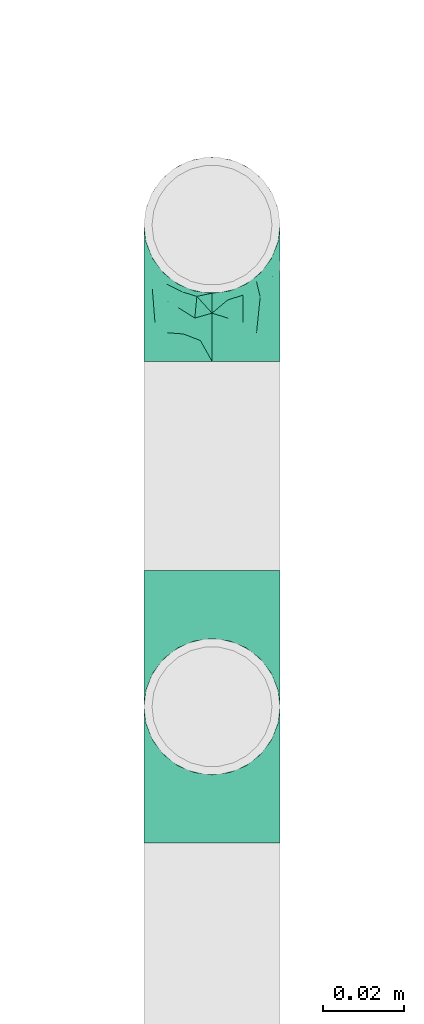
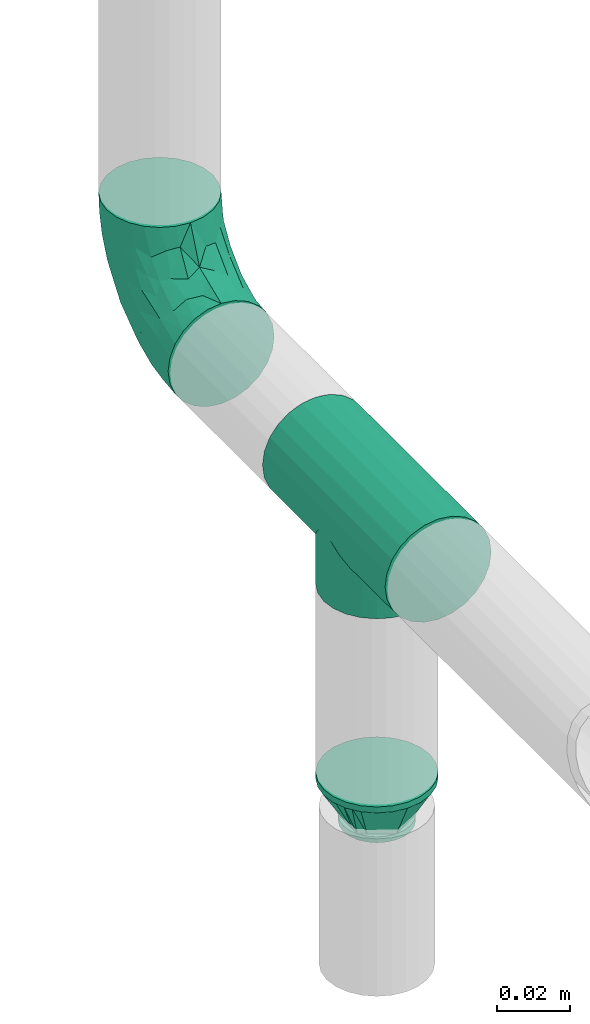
# One storey, part 22 of 51: 3 flow fittings.
"""IFC2X3 building model written with IfcOpenShell, lengths in millimetres."""

from ifc_helpers import new_model, entity, si_unit, converted_unit, derived_unit, direction, frame, origin_with_axes, place, context, subcontext, project, spatial, open_shell, surface_model, source, transform, mapped, type_object, element, save


model = new_model("IFC2X3")

# Units and contexts
model_context = context("Model", 3, precision=0.01, world=frame((0.0, 4.29681676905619e-09, 0.0)), true_north=direction((4.01073788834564e-13, 1.0)))
plan_context = context("Plan", 3, precision=0.01, world=frame((0.0, 4.29681676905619e-09, 0.0)), true_north=direction((4.01073788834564e-13, 1.0)))
body_context = subcontext(model_context, "Body", "Model", "MODEL_VIEW")
ifc_project = project(units=[converted_unit("PLANEANGLEUNIT", "DEGREE", entity("IfcPositiveLengthMeasure", 0.0174532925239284), si_unit("PLANEANGLEUNIT", "RADIAN"), dimensions=[0, 0, 0, 0, 0, 0, 0]), si_unit("AREAUNIT", "SQUARE_METRE"), si_unit("LENGTHUNIT", "METRE", prefix="MILLI"), si_unit("MASSUNIT", "GRAM", prefix="KILO"), si_unit("POWERUNIT", "WATT"), si_unit("PRESSUREUNIT", "PASCAL"), si_unit("FORCEUNIT", "NEWTON", prefix="KILO"), si_unit("ELECTRICVOLTAGEUNIT", "VOLT"), si_unit("ELECTRICCURRENTUNIT", "AMPERE"), si_unit("THERMODYNAMICTEMPERATUREUNIT", "DEGREE_CELSIUS"), si_unit("TIMEUNIT", "SECOND"), si_unit("VOLUMEUNIT", "CUBIC_METRE"), derived_unit("LINEARVELOCITYUNIT", [(si_unit("LENGTHUNIT", "METRE"), 1), (si_unit("TIMEUNIT", "SECOND"), -1)]), derived_unit("VOLUMETRICFLOWRATEUNIT", [(si_unit("VOLUMEUNIT", "CUBIC_METRE"), 1), (si_unit("TIMEUNIT", "SECOND"), -1)]), derived_unit("THERMALTRANSMITTANCEUNIT", [(si_unit("POWERUNIT", "WATT"), 1), (si_unit("THERMODYNAMICTEMPERATUREUNIT", "KELVIN"), -1), (si_unit("AREAUNIT", "SQUARE_METRE"), -1)]), derived_unit("SOUNDPRESSUREUNIT", [(si_unit("PRESSUREUNIT", "PASCAL"), 1)])], contexts=[model_context, plan_context])

# Site, building, storey
site_placement = place(None, frame((0.0, -4.29681676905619e-09, 0.0), z_axis=(0.0, 0.0, 1.0), x_axis=(1.0, 0.0, 0.0)))
site = spatial("IfcSite", under=ifc_project, at=site_placement, Name="ENGM", CompositionType="ELEMENT")
building_placement = place(site_placement, frame((0.0, 4.29681676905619e-09, 0.0), z_axis=(0.0, 0.0, 1.0), x_axis=(1.0, 0.0, 0.0)))
building = spatial("IfcBuilding", under=site, at=building_placement, Name="TH", CompositionType="ELEMENT")
storey_placement = place(building_placement, frame((0.0, 0.0, 210200.0), z_axis=(0.0, 0.0, 1.0), x_axis=(1.0, 0.0, 0.0)))
storey = spatial("IfcBuildingStorey", under=building, at=storey_placement, Name="Nivå F - 0,7 m", CompositionType="ELEMENT", Elevation=210200.0)

# Flow fittings
pipe_fitting_type_1 = type_object("IfcPipeFittingType", Name="magi_pipe_fe_elbow_short_001", PredefinedType="BEND")
shared_shape_1 = source(origin_with_axes(), body_context, "Body", "SurfaceModel", [
    surface_model("IfcShellBasedSurfaceModel", [(-33.8, 8.45, -14.63583), (-33.8, 4.37404, -16.32415), (-33.8, 11.9501, -11.9501), (-33.8, -11.9501, -11.9501), (-33.8, -14.63583, -8.45), (-33.8, -8.45, -14.63583), (-33.8, 0.0, -16.9), (-33.8, -4.37404, -16.32415), (-33.8, -4.37404, 16.32415), (-33.8, 0.0, 16.9), (-33.8, -8.45, 14.63583), (-33.8, 16.32415, -4.37404), (-33.8, 14.63583, -8.45), (-33.8, -16.32415, -4.37404), (-33.8, -16.9, 0.0), (-33.8, -16.32415, 4.37404), (-33.8, 11.9501, 11.9501), (-33.8, 14.63583, 8.45), (-33.8, 16.32415, 4.37404), (-33.8, 4.37404, 16.32415), (-33.8, 8.45, 14.63583), (-33.8, -14.63583, 8.45), (-33.8, -11.9501, 11.9501), (-33.8, 16.9, 0.0), (-11.9501, 33.8, -11.9501), (0.0, 33.8, -16.9), (-4.37404, 33.8, -16.32415), (-8.45, 33.8, -14.63583), (-14.63583, 33.8, -8.45), (-16.32415, 33.8, -4.37404), (14.63583, 33.8, -8.45), (8.45, 33.8, 14.63583), (16.32415, 33.8, -4.37404), (8.45, 33.8, -14.63583), (11.9501, 33.8, -11.9501), (4.37404, 33.8, -16.32415), (16.32415, 33.8, 4.37404), (16.9, 33.8, 0.0), (-11.9501, 33.8, 11.9501), (-16.32415, 33.8, 4.37404), (-14.63583, 33.8, 8.45), (-8.45, 33.8, 14.63583), (-4.37404, 33.8, 16.32415), (11.9501, 33.8, 11.9501), (14.63583, 33.8, 8.45), (0.0, 33.8, 16.9), (4.37404, 33.8, 16.32415), (-16.9, 33.8, 0.0), (-24.79389, -13.12945, 9.48721), (-22.19287, -9.75018, 12.59315), (-24.09897, -14.97035, 0.0), (-14.93934, -10.76256, 8.5297), (-22.46095, -14.75051, 5.27077), (14.75051, 22.46094, 5.27077), (11.9251, 13.23888, 4.33236), (13.04069, 14.39795, 0.0), (7.71387, 13.68847, 11.55891), (9.75018, 22.19287, 12.59315), (4.10169, 13.0571, 14.04018), (-24.84007, -6.39063, 15.2048), (-25.81779, -2.23879, 16.61097), (-23.66549, 2.59054, 16.87119), (-26.50418, 14.06512, 11.08152), (-24.21253, 17.66365, 7.72657), (-29.58514, 15.86957, 7.00283), (-6.17382, -7.5455, 0.0), (-13.23888, -11.9251, 4.33236), (-14.39795, -13.04069, 0.0), (-17.81434, 18.87373, 11.97104), (-6.30846, 29.15138, 15.82987), (-2.31622, 25.28002, 16.85849), (-29.23923, 10.23435, 13.77053), (-1.45439, -2.85688, 7.61475), (-0.28326, 0.34872, 10.09509), (-5.74484, -4.04709, 10.4122), (-4.41137, 11.31918, 16.59407), (-8.39727, 3.10034, 15.7812), (-1.72649, 9.1306, 15.53089), (-17.39909, 24.75344, 7.64977), (-26.19233, 20.0512, 0.0), (-28.14518, 17.29657, 4.25857), (-26.05147, 6.6281, 15.96447), (-5.87354, 16.61944, 16.86968), (-12.51807, 12.51807, 16.48937), (-10.06312, 7.38516, 16.81295), (-3.01882, 3.01882, 13.81718), (-13.0571, -4.10169, 14.04018), (-16.82553, -0.15166, 16.38038), (10.76256, 14.93934, 8.5297), (13.12945, 24.79389, 9.48721), (6.39063, 24.84007, 15.2048), (2.23879, 25.81779, 16.61097), (-13.68847, -7.71387, 11.55891), (14.97035, 24.09897, 0.0), (-7.30894, 22.89991, 16.09489), (-10.67958, 26.17414, 14.008), (-12.78295, 18.26924, 15.06066), (-13.88562, 22.45231, 12.93244), (-18.04944, 15.16501, 14.04434), (-23.11658, 20.08178, 4.02986), (-21.84989, 21.84989, 0.0), (-18.55817, 25.48277, 3.93065), (-13.95142, 26.94732, 11.03289), (-18.57098, 7.23906, 16.59756), (-16.58335, 4.14122, 16.89279), (-17.96666, 11.46709, 15.63151), (-9.84453, 17.54304, 16.18938), (0.15166, 16.82553, 16.38038), (-23.27207, 11.47201, 14.23154), (3.84842, 5.86994, 10.70473), (-8.0212, -7.54413, 7.93275), (1.00345, -2.19508, 4.57414), (5.13203, 3.01004, 5.90201), (5.24161, 1.7543, 2.53265), (8.70457, 7.04947, 3.99182), (-20.0512, 26.19233, 0.0), (8.4852, 8.76699, 7.09296), (-4.55488, -6.72064, 4.90681), (2.05031, -2.05031, 0.0), (7.5455, 6.17382, 0.0), (-26.75399, 2.1369, -16.845), (-14.61995, 24.73803, -11.27736), (-28.45274, -13.45335, -9.81895), (-26.00469, 6.63555, -15.96645), (-23.06726, 20.04573, -4.26202), (-13.80647, -4.26506, -14.17873), (-14.67501, -0.21081, -16.07388), (-6.7902, -0.2828, -13.8478), (-24.53586, 11.08096, -14.13417), (-26.72048, 14.00837, -11.05776), (10.0967, 24.44989, -12.75976), (5.83237, 21.40218, -15.03047), (6.66249, 28.54238, -15.38093), (-20.38182, 15.48705, -12.74596), (12.53268, 21.23441, -9.15363), (12.54494, 15.67504, -5.54878), (9.7522, 12.89279, -8.66343), (-15.65186, 19.64213, -13.01327), (-12.03528, 20.66498, -14.67665), (-15.61907, 15.61906, -14.83879), (-25.56551, -15.26206, 0.0), (-24.65452, -15.12934, -5.50955), (13.45335, 28.45274, -9.81895), (15.12934, 24.65452, -5.50955), (-7.35442, -8.31014, -5.65563), (-15.67504, -12.54494, -5.54878), (-24.44989, -10.0967, -12.75976), (0.16522, 0.41303, -9.71728), (-5.70658, -5.33066, -8.89288), (-5.13869, -2.37198, -11.53565), (-21.23441, -12.53268, -9.15363), (0.71146, 7.93863, -14.09382), (0.21081, 14.67501, -16.07388), (3.49291, 14.42772, -14.76381), (-24.89911, -2.13088, -16.591), (-28.54238, -6.66249, -15.38093), (-18.44386, -7.71663, -13.26957), (2.13088, 24.89911, -16.591), (-28.64342, 17.44413, -2.89318), (1.70017, -1.28722, -5.09504), (-16.57067, 26.81947, -7.36596), (-17.69055, 27.4263, -3.76405), (-12.89279, -9.7522, -8.66343), (-5.96611, 5.96611, -15.95814), (-20.53709, 20.09345, -8.28985), (-2.1369, 26.75399, -16.845), (-6.89872, 24.58781, -16.02578), (-10.60739, 26.53157, -13.98044), (-21.40218, -5.83237, -15.03047), (2.93192, 5.89627, -11.55917), (6.89393, 12.61842, -11.82233), (5.58056, 5.95325, -8.79455), (-3.99512, 18.61798, -16.89635), (8.31014, 7.35442, -5.65563), (-9.1383, 9.86148, -16.89041), (-9.99983, 16.02119, -16.39699), (-16.68576, 9.78031, -16.34199), (-27.01915, 16.61158, -7.12979), (15.26206, 25.56551, 0.0), (-18.61798, 3.99512, -16.89635), (-19.37495, 27.82495, 0.0), (-12.61842, -6.89393, -11.82233), (-18.84705, 19.14018, -10.96545)], [open_shell([[[0, 1, 2]], [[3, 4, 5]], [[6, 7, 5]], [[8, 9, 10]], [[1, 6, 2]], [[11, 12, 2]], [[4, 2, 6]], [[2, 13, 10]], [[5, 4, 6]], [[2, 4, 13]], [[14, 15, 13]], [[11, 2, 16]], [[11, 17, 18]], [[11, 16, 17]], [[19, 20, 16]], [[16, 2, 10]], [[19, 16, 10]], [[21, 22, 15]], [[22, 13, 15]], [[22, 10, 13]], [[10, 9, 19]], [[11, 18, 23]], [[24, 25, 26]], [[24, 26, 27]], [[24, 28, 29]], [[25, 24, 30]], [[31, 32, 24]], [[33, 30, 34]], [[33, 35, 25]], [[25, 30, 33]], [[32, 30, 24]], [[32, 36, 37]], [[38, 24, 29]], [[39, 40, 29]], [[40, 38, 29]], [[38, 41, 42]], [[38, 31, 24]], [[31, 38, 42]], [[36, 43, 44]], [[36, 32, 43]], [[31, 45, 46]], [[32, 31, 43]], [[42, 45, 31]], [[39, 29, 47]], [[22, 48, 49]], [[15, 14, 50]], [[51, 48, 52]], [[53, 54, 55]], [[48, 22, 21]], [[15, 52, 21]], [[56, 57, 58]], [[49, 10, 22]], [[49, 59, 10]], [[9, 60, 61]], [[62, 63, 64]], [[65, 66, 67]], [[57, 43, 31]], [[62, 68, 63]], [[42, 69, 70]], [[20, 71, 16]], [[8, 60, 9]], [[72, 73, 74]], [[75, 76, 77]], [[16, 62, 17]], [[40, 39, 78]], [[79, 23, 80]], [[64, 18, 17]], [[9, 61, 19]], [[19, 81, 20]], [[82, 83, 84]], [[74, 85, 86]], [[59, 86, 87]], [[88, 89, 57]], [[90, 31, 46]], [[44, 53, 36]], [[46, 45, 91]], [[54, 53, 88]], [[44, 89, 53]], [[92, 86, 49]], [[89, 44, 43]], [[10, 59, 8]], [[53, 55, 93]], [[93, 36, 53]], [[66, 52, 67]], [[94, 82, 70]], [[95, 96, 94]], [[97, 98, 96]], [[79, 99, 100]], [[41, 38, 95]], [[101, 100, 99]], [[68, 78, 63]], [[42, 41, 69]], [[23, 18, 80]], [[95, 94, 69]], [[78, 101, 99]], [[38, 102, 95]], [[70, 45, 42]], [[97, 95, 102]], [[15, 50, 52]], [[90, 57, 31]], [[57, 90, 58]], [[81, 19, 61]], [[103, 104, 84]], [[105, 81, 103]], [[38, 40, 102]], [[106, 96, 83]], [[94, 106, 82]], [[91, 70, 107]], [[71, 62, 16]], [[62, 108, 98]], [[86, 59, 49]], [[67, 52, 50]], [[60, 59, 87]], [[92, 49, 51]], [[86, 85, 76]], [[91, 90, 46]], [[37, 36, 93]], [[107, 77, 58]], [[107, 58, 90]], [[58, 85, 109]], [[110, 74, 92]], [[72, 74, 110]], [[66, 51, 52]], [[72, 111, 112]], [[113, 114, 112]], [[56, 88, 57]], [[52, 48, 21]], [[49, 48, 51]], [[57, 89, 43]], [[53, 89, 88]], [[103, 81, 61]], [[71, 81, 108]], [[18, 64, 80]], [[63, 78, 99]], [[47, 115, 101]], [[101, 115, 100]], [[40, 78, 102]], [[68, 102, 78]], [[97, 96, 95]], [[105, 98, 108]], [[103, 84, 83]], [[107, 70, 82]], [[76, 84, 87]], [[82, 84, 75]], [[70, 91, 45]], [[90, 91, 107]], [[59, 60, 8]], [[61, 60, 87]], [[73, 85, 74]], [[109, 112, 116]], [[103, 61, 104]], [[105, 103, 83]], [[96, 105, 83]], [[81, 105, 108]], [[96, 98, 105]], [[62, 98, 68]], [[61, 87, 104]], [[87, 84, 104]], [[86, 76, 87]], [[77, 76, 85]], [[58, 77, 85]], [[75, 77, 107]], [[82, 75, 107]], [[76, 75, 84]], [[81, 71, 20]], [[62, 71, 108]], [[95, 69, 41]], [[70, 69, 94]], [[62, 64, 17]], [[80, 63, 99]], [[63, 80, 64]], [[80, 99, 79]], [[66, 65, 117]], [[110, 66, 117]], [[112, 114, 116]], [[118, 117, 65]], [[110, 92, 51]], [[112, 111, 113]], [[119, 55, 54]], [[74, 86, 92]], [[58, 109, 56]], [[116, 56, 109]], [[66, 110, 51]], [[72, 110, 117]], [[111, 72, 117]], [[73, 112, 109]], [[117, 118, 111]], [[113, 111, 118]], [[118, 119, 113]], [[114, 119, 54]], [[119, 114, 113]], [[116, 54, 88]], [[54, 116, 114]], [[116, 88, 56]], [[112, 73, 72]], [[85, 73, 109]], [[78, 39, 101]], [[47, 101, 39]], [[102, 68, 97]], [[97, 68, 98]], [[82, 106, 83]], [[94, 96, 106]], [[1, 120, 6]], [[28, 24, 121]], [[3, 122, 4]], [[0, 123, 1]], [[100, 124, 79]], [[125, 126, 127]], [[128, 2, 129]], [[130, 131, 132]], [[128, 129, 133]], [[134, 135, 136]], [[137, 138, 139]], [[128, 0, 2]], [[67, 140, 141]], [[134, 142, 143]], [[141, 13, 4]], [[144, 65, 145]], [[146, 3, 5]], [[147, 148, 149]], [[145, 141, 150]], [[151, 152, 153]], [[154, 7, 6]], [[5, 155, 146]], [[150, 146, 156]], [[155, 5, 7]], [[143, 135, 134]], [[35, 157, 25]], [[23, 79, 158]], [[148, 159, 144]], [[160, 161, 29]], [[145, 162, 144]], [[163, 152, 151]], [[29, 28, 160]], [[121, 164, 160]], [[33, 34, 130]], [[25, 165, 26]], [[26, 165, 166]], [[142, 34, 30]], [[24, 27, 167]], [[124, 161, 164]], [[157, 35, 132]], [[155, 154, 168]], [[123, 0, 128]], [[169, 170, 171]], [[172, 157, 152]], [[26, 166, 27]], [[132, 35, 33]], [[142, 130, 34]], [[168, 154, 126]], [[136, 135, 173]], [[133, 137, 139]], [[2, 12, 129]], [[170, 131, 130]], [[30, 32, 143]], [[172, 174, 175]], [[176, 123, 128]], [[158, 177, 11]], [[135, 55, 119]], [[167, 27, 166]], [[175, 166, 172]], [[137, 167, 138]], [[122, 141, 4]], [[140, 14, 13]], [[32, 37, 178]], [[170, 130, 134]], [[152, 157, 131]], [[165, 157, 172]], [[153, 170, 151]], [[152, 163, 174]], [[168, 125, 156]], [[122, 146, 150]], [[120, 154, 6]], [[179, 174, 126]], [[179, 126, 154]], [[126, 163, 127]], [[162, 145, 150]], [[140, 13, 141]], [[32, 178, 143]], [[55, 143, 178]], [[177, 129, 12]], [[128, 133, 139]], [[176, 128, 139]], [[120, 123, 179]], [[121, 160, 28]], [[161, 100, 180]], [[166, 175, 138]], [[121, 24, 167]], [[161, 47, 29]], [[79, 124, 158]], [[124, 164, 177]], [[161, 124, 100]], [[136, 171, 170]], [[127, 163, 151]], [[147, 171, 159]], [[148, 144, 162]], [[127, 151, 169]], [[127, 181, 125]], [[129, 177, 164]], [[12, 11, 177]], [[159, 65, 144]], [[67, 141, 145]], [[143, 55, 135]], [[135, 119, 173]], [[123, 120, 1]], [[154, 120, 179]], [[157, 165, 25]], [[166, 165, 172]], [[172, 152, 174]], [[176, 139, 175]], [[126, 174, 163]], [[176, 174, 179]], [[174, 176, 175]], [[123, 176, 179]], [[150, 181, 162]], [[127, 149, 181]], [[181, 148, 162]], [[159, 148, 147]], [[171, 136, 173]], [[170, 134, 136]], [[159, 171, 173]], [[171, 147, 169]], [[169, 147, 149]], [[151, 170, 169]], [[164, 182, 129]], [[182, 121, 137]], [[181, 149, 148]], [[169, 149, 127]], [[182, 137, 133]], [[167, 137, 121]], [[166, 138, 167]], [[175, 139, 138]], [[129, 182, 133]], [[121, 182, 164]], [[161, 160, 164]], [[47, 161, 180]], [[177, 158, 124]], [[23, 158, 11]], [[130, 132, 33]], [[157, 132, 131]], [[143, 142, 30]], [[130, 142, 134]], [[154, 155, 7]], [[146, 155, 168]], [[146, 122, 3]], [[141, 122, 150]], [[152, 131, 153]], [[159, 119, 118]], [[67, 145, 65]], [[170, 153, 131]], [[119, 159, 173]], [[159, 118, 65]], [[156, 125, 181]], [[126, 125, 168]], [[150, 156, 181]], [[168, 156, 146]]])]),
])
flow_fitting_1_placement = place(storey_placement, frame((903366.02472, 481524.00985, 2700.0), z_axis=(1.0, 0.0, 0.0), x_axis=(0.0, 1.0, 0.0)))
element("IfcFlowFitting", 1, at=flow_fitting_1_placement, inside=storey, type_object=pipe_fitting_type_1, Name="magi_pipe_fe_elbow_short_001", context=body_context, shape_type="MappedRepresentation", body=[
    mapped(shared_shape_1, transform((0.0, 0.0, 0.0), scale=1.0)),
])
pipe_fitting_type_2 = type_object("IfcPipeFittingType", Name="magi_pipe_fe_reducer_centric_short_NOR", PredefinedType="TRANSITION")
shared_shape_2 = source(origin_with_axes(), body_context, "Body", "SurfaceModel", [
    surface_model("IfcShellBasedSurfaceModel", [(-2.0, -7.56604, -7.56604), (-2.0, -10.33541, -2.76936), (-2.0, -5.35, -9.26647), (12.4, 11.9501, 11.9501), (12.4, 0.0, 16.9), (12.4, 11.9501, -11.9501), (12.4, 16.9, 0.0), (0.0, -10.7, 0.0), (0.0, -5.35, 9.26647), (0.0, -5.35, -9.26647), (12.4, -15.66253, -2.98753), (12.4, -16.9, 0.0), (12.4, -11.9501, -11.9501), (0.0, -6.6875, -6.94985), (12.4, -8.96258, -13.18758), (0.0, 10.7, 0.0), (12.4, 15.66253, -2.98753), (12.4, -5.97505, -14.42505), (12.4, 8.96258, -13.18758), (0.0, 6.6875, -6.94985), (12.4, 5.97505, -14.42505), (0.0, 5.35, -9.26647), (0.0, -9.3625, -2.31662), (0.0, -8.025, -4.63324), (12.4, -14.42505, -5.97505), (12.4, 14.42505, -5.97505), (0.0, 8.025, -4.63324), (0.0, 9.3625, -2.31662), (12.4, 13.18758, -8.96258), (12.4, -13.18758, -8.96258), (12.4, 15.66253, 2.98753), (0.0, 6.6875, 6.94985), (12.4, 8.96258, 13.18758), (12.4, -15.66253, 2.98753), (0.0, 5.35, 9.26647), (12.4, 5.97505, 14.42505), (12.4, -8.96258, 13.18758), (0.0, -6.6875, 6.94985), (12.4, -11.9501, 11.9501), (12.4, -5.97505, 14.42505), (0.0, 9.3625, 2.31662), (0.0, 8.025, 4.63324), (12.4, 14.42505, 5.97505), (12.4, -14.42505, 5.97505), (0.0, -8.025, 4.63324), (0.0, -9.3625, 2.31662), (12.4, -13.18758, 8.96258), (12.4, 13.18758, 8.96258), (14.4, -11.9501, -11.9501), (14.4, -8.45, -14.63583), (14.4, -4.37404, -16.32415), (14.4, 8.45, -14.63583), (14.4, 16.9, 0.0), (14.4, -14.63583, -8.45), (14.4, -16.32415, -4.37404), (14.4, -4.37404, 16.32415), (14.4, 4.37404, -16.32415), (14.4, 0.0, -16.9), (14.4, 14.63583, -8.45), (14.4, 16.32415, -4.37404), (14.4, 11.9501, -11.9501), (14.4, -16.32415, 4.37404), (14.4, -16.9, 0.0), (14.4, -11.9501, 11.9501), (14.4, -14.63583, 8.45), (14.4, -8.45, 14.63583), (14.4, 0.0, 16.9), (14.4, 16.32415, 4.37404), (14.4, 14.63583, 8.45), (14.4, 11.9501, 11.9501), (14.4, 8.45, 14.63583), (14.4, 4.37404, 16.32415), (12.4, 14.63583, 8.45), (12.4, -4.37404, 16.32415), (12.4, -8.45, 14.63583), (12.4, -16.32415, 4.37404), (12.4, -14.63583, 8.45), (12.4, 8.45, 14.63583), (12.4, 4.37404, 16.32415), (12.4, 16.32415, 4.37404), (12.4, 16.32415, -4.37404), (12.4, 8.45, -14.63583), (12.4, -16.32415, -4.37404), (12.4, -14.63583, -8.45), (12.4, -4.37404, -16.32415), (12.4, -8.45, -14.63583), (12.4, 14.63583, -8.45), (12.4, 4.37404, -16.32415), (12.4, 0.0, -16.9), (-2.0, -2.76936, 10.33541), (-2.0, 0.0, 10.7), (-2.0, -10.33541, 2.76936), (-2.0, -5.35, 9.26647), (-2.0, -7.56604, 7.56604), (-2.0, -9.26647, 5.35), (-2.0, 9.26647, 5.35), (-2.0, 5.35, 9.26647), (-2.0, 7.56604, 7.56604), (-2.0, 2.76936, 10.33541), (-2.0, 10.7, 0.0), (-2.0, 10.33541, -2.76936), (-2.0, 10.33541, 2.76936), (-2.0, -9.26647, -5.35), (-2.0, 5.35, -9.26647), (-2.0, -2.76936, -10.33541), (-2.0, 9.26647, -5.35), (-2.0, 7.56604, -7.56604), (-2.0, 2.76936, -10.33541), (-2.0, 0.0, -10.7), (-2.0, -10.7, 0.0), (0.0, -2.76936, -10.33541), (0.0, 0.0, -10.7), (0.0, -7.56604, -7.56604), (0.0, -10.33541, -2.76936), (0.0, 10.33541, -2.76936), (0.0, -9.26647, -5.35), (0.0, 9.26647, 5.35), (0.0, 2.76936, -10.33541), (0.0, 9.26647, -5.35), (0.0, 7.56604, -7.56604), (0.0, -10.33541, 2.76936), (0.0, -7.56604, 7.56604), (0.0, -9.26647, 5.35), (0.0, 0.0, 10.7), (0.0, -2.76936, 10.33541), (0.0, 10.33541, 2.76936), (0.0, 2.76936, 10.33541), (0.0, 7.56604, 7.56604), (12.4, -2.98753, -15.66253), (0.0, -2.675, -9.26647), (0.0, 2.675, -9.26647), (12.4, 2.98753, -15.66253), (0.0, 0.0, -9.26647), (12.4, 2.98753, 15.66253), (0.0, 2.675, 9.26647), (0.0, -2.675, 9.26647), (12.4, -2.98753, 15.66253), (0.0, 0.0, 9.26647)], [open_shell([[[0, 1, 2]], [[3, 4, 5]], [[5, 6, 3]], [[7, 8, 9]], [[10, 11, 7]], [[12, 13, 14]], [[15, 6, 16]], [[9, 17, 14]], [[18, 19, 5]], [[18, 20, 21]], [[22, 23, 24]], [[25, 26, 27]], [[26, 25, 28]], [[29, 24, 23]], [[30, 6, 15]], [[3, 31, 32]], [[7, 11, 33]], [[34, 35, 32]], [[36, 37, 38]], [[36, 39, 8]], [[40, 41, 42]], [[43, 44, 45]], [[44, 43, 46]], [[47, 42, 41]], [[48, 49, 50]], [[48, 50, 51]], [[51, 52, 48]], [[53, 48, 54]], [[48, 55, 54]], [[56, 51, 57]], [[51, 50, 57]], [[58, 59, 60]], [[51, 60, 59]], [[59, 52, 51]], [[61, 62, 54]], [[63, 64, 61]], [[55, 63, 61]], [[48, 52, 55]], [[65, 63, 55]], [[66, 55, 52]], [[67, 68, 66]], [[66, 52, 67]], [[69, 70, 68]], [[70, 66, 68]], [[71, 66, 70]], [[61, 54, 55]], [[4, 72, 73]], [[74, 73, 75]], [[75, 76, 38]], [[74, 75, 38]], [[75, 73, 72]], [[3, 72, 77]], [[4, 78, 77]], [[77, 72, 4]], [[75, 72, 79]], [[6, 80, 79]], [[81, 75, 79]], [[12, 82, 75]], [[83, 82, 12]], [[84, 85, 12]], [[12, 75, 81]], [[12, 81, 84]], [[86, 5, 80]], [[81, 80, 5]], [[87, 88, 81]], [[81, 79, 80]], [[81, 88, 84]], [[11, 75, 82]], [[6, 59, 80]], [[80, 58, 86]], [[81, 5, 51]], [[60, 5, 86]], [[87, 81, 56]], [[59, 58, 80]], [[6, 52, 59]], [[81, 51, 56]], [[51, 5, 60]], [[86, 58, 60]], [[87, 56, 57]], [[57, 88, 87]], [[88, 50, 84]], [[84, 49, 85]], [[83, 12, 53]], [[48, 12, 85]], [[82, 83, 54]], [[49, 48, 85]], [[84, 50, 49]], [[82, 54, 62]], [[54, 83, 53]], [[12, 48, 53]], [[82, 62, 11]], [[57, 50, 88]], [[11, 61, 75]], [[75, 64, 76]], [[74, 38, 65]], [[63, 38, 76]], [[73, 74, 55]], [[61, 64, 75]], [[11, 62, 61]], [[74, 65, 55]], [[65, 38, 63]], [[76, 64, 63]], [[73, 55, 66]], [[66, 4, 73]], [[4, 71, 78]], [[78, 70, 77]], [[72, 3, 68]], [[69, 3, 77]], [[79, 72, 67]], [[70, 69, 77]], [[78, 71, 70]], [[79, 67, 52]], [[67, 72, 68]], [[3, 69, 68]], [[79, 52, 6]], [[66, 71, 4]], [[89, 90, 91]], [[92, 89, 93]], [[91, 94, 93]], [[89, 91, 93]], [[95, 91, 90]], [[96, 97, 98]], [[95, 98, 97]], [[99, 100, 101]], [[90, 98, 95]], [[100, 95, 101]], [[1, 91, 95]], [[1, 95, 100]], [[102, 1, 0]], [[100, 2, 1]], [[2, 103, 104]], [[105, 106, 100]], [[103, 100, 106]], [[107, 108, 103]], [[2, 100, 103]], [[103, 108, 104]], [[109, 91, 1]], [[110, 111, 9]], [[112, 9, 113]], [[113, 9, 114]], [[115, 112, 113]], [[113, 114, 116]], [[117, 21, 111]], [[21, 9, 111]], [[118, 114, 119]], [[21, 119, 114]], [[21, 114, 9]], [[120, 7, 113]], [[121, 122, 120]], [[116, 121, 113]], [[121, 123, 124]], [[8, 121, 124]], [[123, 121, 116]], [[15, 125, 114]], [[114, 125, 116]], [[34, 126, 127]], [[116, 127, 126]], [[116, 126, 123]], [[121, 120, 113]], [[99, 114, 100]], [[100, 118, 105]], [[103, 106, 21]], [[119, 106, 105]], [[107, 103, 117]], [[114, 118, 100]], [[99, 15, 114]], [[103, 21, 117]], [[21, 106, 119]], [[105, 118, 119]], [[107, 117, 111]], [[111, 108, 107]], [[108, 110, 104]], [[104, 9, 2]], [[102, 0, 115]], [[112, 0, 2]], [[1, 102, 113]], [[9, 112, 2]], [[104, 110, 9]], [[1, 113, 7]], [[113, 102, 115]], [[0, 112, 115]], [[1, 7, 109]], [[111, 110, 108]], [[109, 120, 91]], [[91, 122, 94]], [[92, 93, 8]], [[121, 93, 94]], [[89, 92, 124]], [[120, 122, 91]], [[109, 7, 120]], [[92, 8, 124]], [[8, 93, 121]], [[94, 122, 121]], [[89, 124, 123]], [[123, 90, 89]], [[90, 126, 98]], [[98, 34, 96]], [[95, 97, 116]], [[127, 97, 96]], [[101, 95, 125]], [[34, 127, 96]], [[98, 126, 34]], [[101, 125, 15]], [[125, 95, 116]], [[97, 127, 116]], [[101, 15, 99]], [[123, 126, 90]], [[4, 38, 11]], [[11, 88, 5]], [[88, 11, 12]], [[4, 11, 5]], [[8, 34, 15]], [[21, 9, 15]], [[8, 15, 9]], [[128, 17, 129]], [[16, 25, 27]], [[130, 21, 20]], [[18, 21, 19]], [[24, 10, 22]], [[26, 28, 19]], [[20, 131, 130]], [[9, 129, 17]], [[13, 12, 29]], [[9, 14, 13]], [[129, 132, 128]], [[130, 131, 132]], [[29, 23, 13]], [[132, 131, 88]], [[16, 27, 15]], [[22, 10, 7]], [[5, 19, 28]], [[132, 88, 128]], [[133, 35, 134]], [[33, 43, 45]], [[135, 8, 39]], [[36, 8, 37]], [[42, 30, 40]], [[44, 46, 37]], [[39, 136, 135]], [[34, 134, 35]], [[31, 3, 47]], [[34, 32, 31]], [[134, 137, 133]], [[135, 136, 137]], [[47, 41, 31]], [[137, 136, 4]], [[33, 45, 7]], [[40, 30, 15]], [[38, 37, 46]], [[137, 4, 133]]])]),
])
flow_fitting_2_placement = place(storey_placement, frame((903366.02472, 481404.39138, 2596.95199999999), z_axis=(1.0, 0.0, 0.0), x_axis=(0.0, 0.0, 1.0)))
element("IfcFlowFitting", 2, at=flow_fitting_2_placement, inside=storey, type_object=pipe_fitting_type_2, Name="magi_pipe_fe_reducer_centric_short_NOR", context=body_context, shape_type="MappedRepresentation", body=[
    mapped(shared_shape_2, transform((0.0, 0.0, 0.0), scale=1.0)),
])
pipe_fitting_type_3 = type_object("IfcPipeFittingType", Name="magi_pipe_fe_tee_centric_90_NOR", PredefinedType="JUNCTION")
shared_shape_3 = source(origin_with_axes(), body_context, "Body", "SurfaceModel", [
    surface_model("IfcShellBasedSurfaceModel", [(-33.8, 4.37404, -16.32415), (-33.8, 0.0, -16.9), (-33.8, 16.32415, -4.37404), (-33.8, 8.45, -14.63583), (-33.8, 11.9501, -11.9501), (-33.8, 14.63583, -8.45), (-33.8, -16.9, 0.0), (-33.8, -11.9501, -11.9501), (-33.8, -14.63583, -8.45), (-33.8, -8.45, -14.63583), (-33.8, -4.37404, -16.32415), (-33.8, -16.32415, -4.37404), (-33.8, 14.63583, 8.45), (-33.8, 16.32415, 4.37404), (-33.8, -8.45, 14.63583), (-33.8, 8.45, 14.63583), (-33.8, 11.9501, 11.9501), (-33.8, 4.37404, 16.32415), (-33.8, 0.0, 16.9), (-33.8, -11.9501, 11.9501), (-33.8, -14.63583, 8.45), (-33.8, -16.32415, 4.37404), (-33.8, -4.37404, 16.32415), (-33.8, 16.9, 0.0), (33.8, 4.37404, -16.32415), (33.8, -16.9, 0.0), (33.8, 0.0, -16.9), (33.8, 14.63583, -8.45), (33.8, 8.45, -14.63583), (33.8, 16.32415, -4.37404), (33.8, 11.9501, -11.9501), (33.8, -16.32415, 4.37404), (33.8, -8.45, -14.63583), (33.8, -4.37404, -16.32415), (33.8, -11.9501, -11.9501), (33.8, -14.63583, -8.45), (33.8, -16.32415, -4.37404), (33.8, 16.32415, 4.37404), (33.8, 8.45, 14.63583), (33.8, 14.63583, 8.45), (33.8, 11.9501, 11.9501), (33.8, -8.45, 14.63583), (33.8, 4.37404, 16.32415), (33.8, -14.63583, 8.45), (33.8, -11.9501, 11.9501), (33.8, 0.0, 16.9), (33.8, -4.37404, 16.32415), (33.8, 16.9, 0.0), (16.28698, -16.28698, 4.51047), (16.9, -16.9, 0.0), (14.62704, -14.62704, 8.4652), (9.47213, -9.47213, 13.99602), (12.26343, -12.26343, 11.62834), (-16.9, -16.9, 0.0), (-16.28698, -16.28698, 4.51047), (-14.62704, -14.62704, 8.4652), (-12.26343, -12.26343, 11.62834), (-9.47213, -9.47213, 13.99602), (-6.42894, -6.42894, 15.62942), (6.42894, -6.42894, 15.62942), (3.24522, -3.24522, 16.58549), (0.0, 0.0, 16.9), (-3.24522, -3.24522, 16.58549), (3.24522, -3.24522, -16.58549), (0.0, 0.0, -16.9), (-3.24522, -3.24522, -16.58549), (-6.42894, -6.42894, -15.62942), (6.42894, -6.42894, -15.62942), (9.47213, -9.47213, -13.99602), (12.26343, -12.26343, -11.62834), (14.62704, -14.62704, -8.4652), (16.28698, -16.28698, -4.51047), (-9.47213, -9.47213, -13.99602), (-12.26343, -12.26343, -11.62834), (-16.28698, -16.28698, -4.51047), (-14.62704, -14.62704, -8.4652), (4.37404, -25.35, -16.32415), (-16.9, -25.35, 0.0), (0.0, -25.35, -16.9), (14.63583, -25.35, -8.45), (8.45, -25.35, -14.63583), (16.32415, -25.35, -4.37404), (11.9501, -25.35, -11.9501), (-11.9501, -25.35, -11.9501), (-8.45, -25.35, -14.63583), (-4.37404, -25.35, -16.32415), (-14.63583, -25.35, -8.45), (-16.32415, -25.35, -4.37404), (16.9, -25.35, 0.0), (8.45, -25.35, 14.63583), (16.32415, -25.35, 4.37404), (14.63583, -25.35, 8.45), (-8.45, -25.35, 14.63583), (11.9501, -25.35, 11.9501), (4.37404, -25.35, 16.32415), (-16.32415, -25.35, 4.37404), (-11.9501, -25.35, 11.9501), (-14.63583, -25.35, 8.45), (0.0, -25.35, 16.9), (-4.37404, -25.35, 16.32415)], [open_shell([[[0, 1, 2]], [[3, 0, 4]], [[0, 2, 5]], [[4, 0, 5]], [[6, 2, 1]], [[7, 8, 9]], [[1, 10, 9]], [[11, 6, 8]], [[1, 9, 8]], [[1, 8, 6]], [[6, 12, 2]], [[12, 13, 2]], [[14, 12, 6]], [[12, 14, 15]], [[16, 12, 15]], [[17, 15, 18]], [[19, 14, 20]], [[21, 20, 14]], [[22, 18, 14]], [[14, 6, 21]], [[14, 18, 15]], [[23, 2, 13]], [[24, 25, 26]], [[27, 24, 28]], [[27, 29, 24]], [[27, 28, 30]], [[31, 25, 24]], [[26, 32, 33]], [[26, 34, 32]], [[35, 25, 36]], [[35, 34, 26]], [[25, 35, 26]], [[24, 29, 31]], [[29, 37, 38]], [[38, 37, 39]], [[38, 31, 29]], [[38, 39, 40]], [[41, 38, 42]], [[43, 41, 44]], [[41, 43, 31]], [[41, 45, 46]], [[41, 31, 38]], [[42, 45, 41]], [[29, 47, 37]], [[31, 43, 48]], [[25, 31, 49]], [[49, 31, 48]], [[43, 50, 48]], [[44, 41, 51]], [[50, 43, 52]], [[51, 52, 44]], [[52, 43, 44]], [[53, 54, 21]], [[53, 21, 6]], [[21, 54, 20]], [[54, 55, 20]], [[56, 57, 19]], [[19, 20, 56]], [[19, 57, 14]], [[56, 20, 55]], [[14, 57, 58]], [[51, 41, 59]], [[60, 45, 61]], [[59, 46, 60]], [[46, 59, 41]], [[60, 46, 45]], [[61, 45, 42]], [[39, 37, 13]], [[16, 38, 40]], [[12, 40, 39]], [[42, 38, 15]], [[23, 37, 47]], [[62, 61, 18]], [[62, 22, 58]], [[22, 62, 18]], [[58, 22, 14]], [[61, 17, 18]], [[42, 17, 61]], [[15, 17, 42]], [[15, 38, 16]], [[12, 16, 40]], [[13, 12, 39]], [[37, 23, 13]], [[5, 27, 30]], [[23, 47, 29]], [[30, 28, 3]], [[27, 2, 29]], [[26, 33, 63]], [[26, 64, 24]], [[64, 26, 63]], [[28, 24, 0]], [[64, 0, 24]], [[4, 30, 3]], [[2, 27, 5]], [[5, 30, 4]], [[2, 23, 29]], [[65, 66, 10]], [[1, 0, 64]], [[1, 65, 10]], [[66, 9, 10]], [[0, 3, 28]], [[1, 64, 65]], [[63, 33, 67]], [[32, 34, 68]], [[69, 68, 34]], [[35, 70, 69]], [[69, 34, 35]], [[32, 68, 67]], [[36, 25, 49]], [[36, 71, 35]], [[71, 36, 49]], [[35, 71, 70]], [[72, 9, 66]], [[72, 7, 9]], [[7, 72, 73]], [[7, 73, 8]], [[74, 53, 11]], [[75, 74, 8]], [[74, 11, 8]], [[11, 53, 6]], [[75, 8, 73]], [[32, 67, 33]], [[76, 77, 78]], [[79, 76, 80]], [[79, 81, 76]], [[79, 80, 82]], [[77, 76, 81]], [[78, 83, 84]], [[84, 85, 78]], [[86, 77, 87]], [[83, 78, 86]], [[77, 86, 78]], [[81, 88, 77]], [[89, 88, 90]], [[89, 90, 91]], [[92, 77, 89]], [[89, 91, 93]], [[92, 89, 94]], [[95, 96, 97]], [[96, 95, 92]], [[92, 98, 99]], [[95, 77, 92]], [[94, 98, 92]], [[89, 77, 88]], [[77, 95, 53]], [[54, 53, 95]], [[97, 96, 56]], [[96, 92, 57]], [[95, 97, 54]], [[58, 92, 99]], [[55, 54, 97]], [[56, 55, 97]], [[58, 57, 92]], [[98, 61, 62]], [[58, 99, 62]], [[56, 96, 57]], [[62, 99, 98]], [[94, 60, 98]], [[89, 59, 94]], [[91, 90, 48]], [[52, 93, 91]], [[93, 51, 89]], [[49, 90, 88]], [[59, 60, 94]], [[51, 59, 89]], [[49, 48, 90]], [[50, 52, 91]], [[48, 50, 91]], [[51, 93, 52]], [[98, 60, 61]], [[88, 81, 49]], [[71, 49, 81]], [[79, 82, 69]], [[82, 80, 68]], [[81, 79, 71]], [[67, 80, 76]], [[70, 71, 79]], [[69, 70, 79]], [[67, 68, 80]], [[78, 64, 63]], [[67, 76, 63]], [[69, 82, 68]], [[63, 76, 78]], [[85, 65, 78]], [[84, 66, 85]], [[86, 87, 74]], [[86, 73, 83]], [[72, 84, 83]], [[53, 87, 77]], [[66, 65, 85]], [[72, 66, 84]], [[53, 74, 87]], [[75, 73, 86]], [[74, 75, 86]], [[72, 83, 73]], [[78, 65, 64]]])]),
])
flow_fitting_3_placement = place(storey_placement, frame((903366.02472, 481404.39138, 2700.0), z_axis=(-1.0, 0.0, 0.0), x_axis=(0.0, -1.0, 0.0)))
element("IfcFlowFitting", 3, at=flow_fitting_3_placement, inside=storey, type_object=pipe_fitting_type_3, Name="magi_pipe_fe_tee_centric_90_NOR", context=body_context, shape_type="MappedRepresentation", body=[
    mapped(shared_shape_3, transform((0.0, 0.0, 0.0), scale=1.0)),
])

save(model, "model.ifc")
